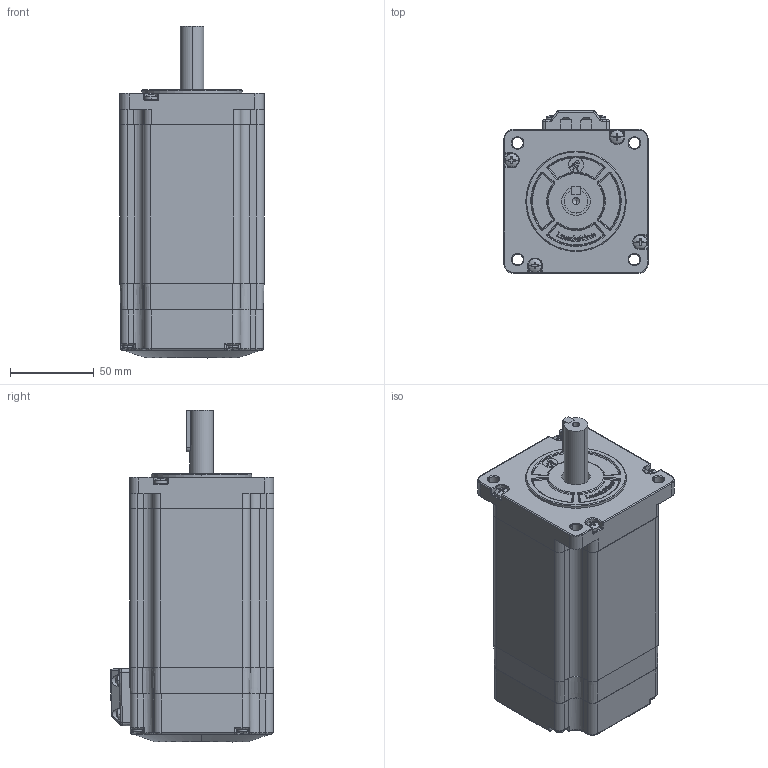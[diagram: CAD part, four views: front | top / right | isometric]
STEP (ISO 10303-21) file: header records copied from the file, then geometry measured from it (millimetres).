
FILE_DESCRIPTION (( 'STEP AP203' ), '1' );
FILE_NAME ('CS-M234120(3D file).STEP', '2019-12-11T01:10:57', ( 'hwtest' ), ( 'Microsoft' ), 'SwSTEP 2.0', 'SolidWorks 2014', '' );
FILE_SCHEMA (( 'CONFIG_CONTROL_DESIGN' ));
Length unit declared in the file: millimetre
Products named in the file (2): CS-M234120_1; CS-M234120(3D file)
Assembly tree (1 placements, depth 2):
  CS-M234120(3D file)
    CS-M234120_1
Bounding box: 86 x 97.46 x 198.2 mm (x, y, z)
Volume: 674520.9 mm3; surface area: 172316 mm2
Topology: 30 solids, 30 shells, 1705 faces, 4503 edges, 2902 vertices
Faces by surface type: plane 720, cylinder 629, bspline 256, sphere 60, cone 40
Entity records: 62248 total; most frequent: CARTESIAN_POINT 21022, ORIENTED_EDGE 8936, DIRECTION 8135, EDGE_CURVE 4468, AXIS2_PLACEMENT_3D 2913, VERTEX_POINT 2893, LINE 2309, VECTOR 2309
